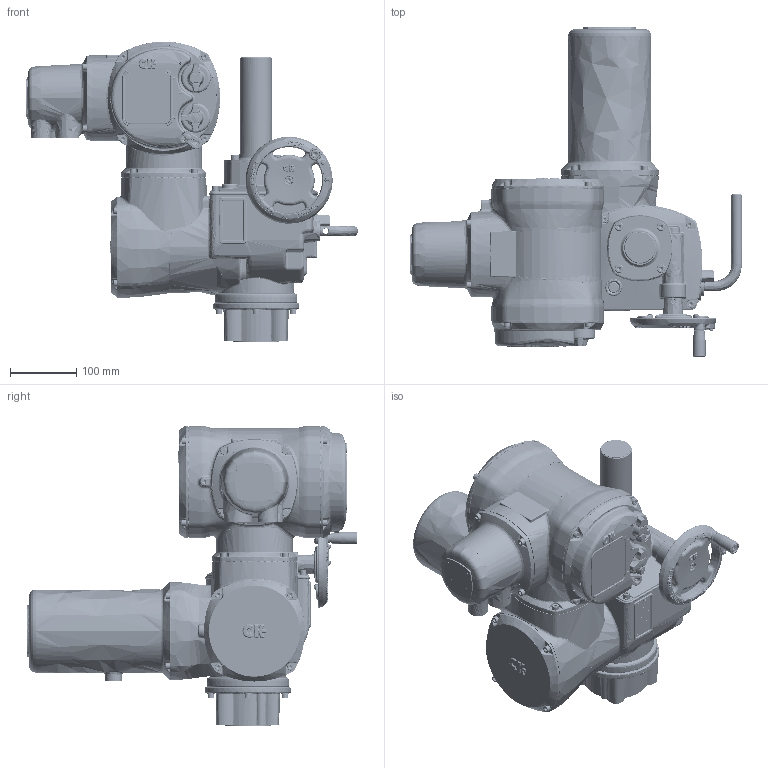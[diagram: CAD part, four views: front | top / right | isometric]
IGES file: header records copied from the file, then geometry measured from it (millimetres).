
Start section: C
Global section: file name: CK120 F10 THRUST BASE - ATRONIK & LARGE MOTOR.igs; native system: By Siemens PLM Incorporated; preprocessor: XPlus GENERIC/IGES 21.0.46; author: Author; organization: Title; date: 20181016.122543; units: millimetre
Bounding box: 502.85 x 499.65 x 455.78 mm (x, y, z)
Surface area: 947224.9 mm2 (no closed solid volume)
Topology: 0 solids, 0 shells, 10700 faces, 59022 edges, 58627 vertices
Faces by surface type: bspline 10700
